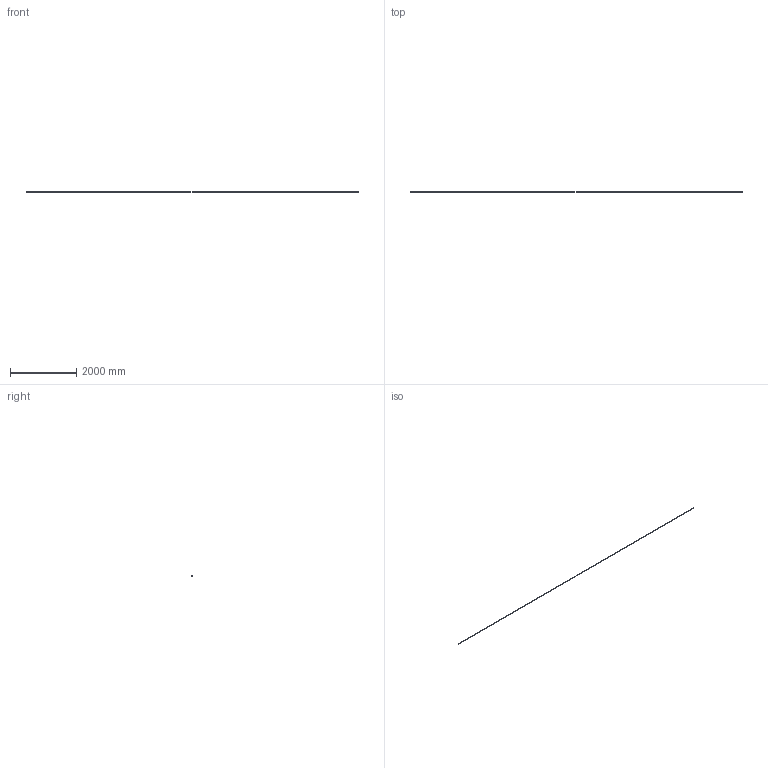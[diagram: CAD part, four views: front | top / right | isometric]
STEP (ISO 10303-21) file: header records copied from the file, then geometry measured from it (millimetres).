
FILE_DESCRIPTION(('FreeCAD Model'),'2;1');
FILE_NAME('Open CASCADE Shape Model','2026-10-12T23:06:14',('Author'),( ''),'Open CASCADE STEP processor 7.8','FreeCAD','Unknown');
FILE_SCHEMA(('AUTOMOTIVE_DESIGN { 1 0 10303 214 1 1 1 1 }'));
Length unit declared in the file: millimetre
Products named in the file (4): noodles; Rope_angel_hair_10m; EndCap_Start; EndCap_End
Assembly tree (3 placements, depth 2):
  noodles
    Rope_angel_hair_10m
    EndCap_Start
    EndCap_End
Bounding box: 10056 x 20.71 x 20.62 mm (x, y, z)
Volume: 3160621.2 mm3; surface area: 633965.4 mm2
Topology: 3 solids, 3 shells, 9 faces, 9 edges, 6 vertices
Faces by surface type: plane 6, cylinder 3
Full cylindrical faces by diameter (mm): 20 x1, 20.8 x2
Entity records: 229 total; most frequent: DIRECTION 41, CARTESIAN_POINT 28, AXIS2_PLACEMENT_3D 19, ORIENTED_EDGE 18, ADVANCED_FACE 9, FACE_BOUND 9, EDGE_LOOP 9, EDGE_CURVE 9
